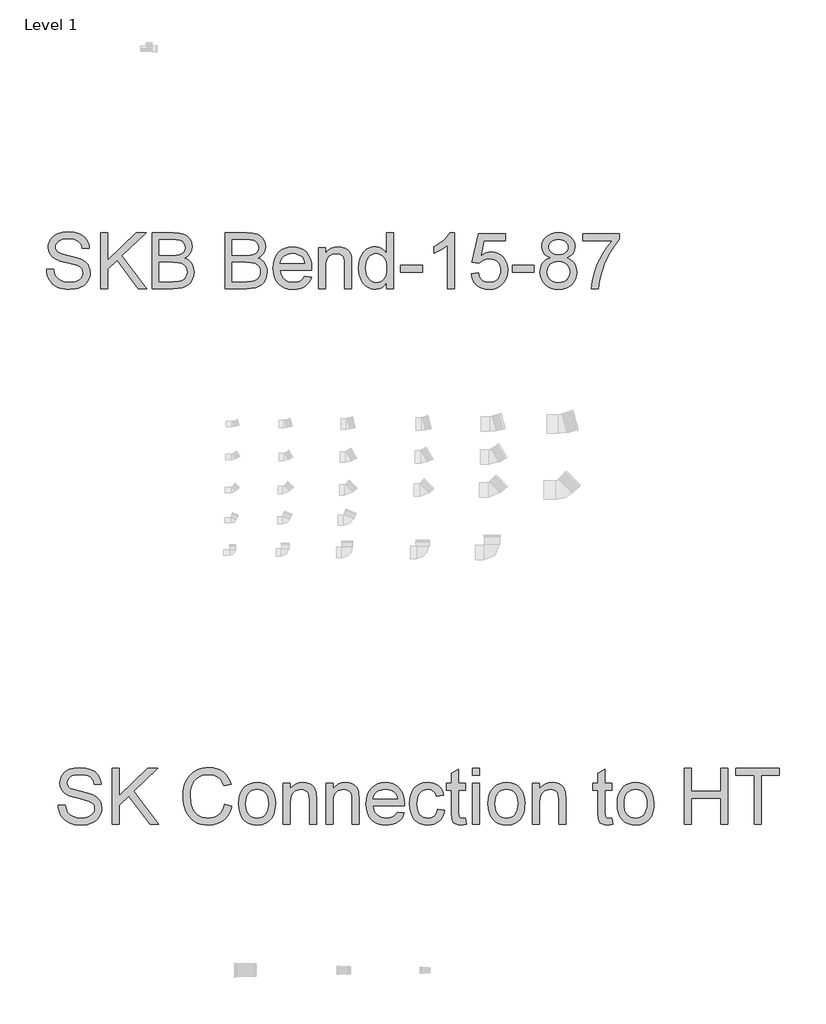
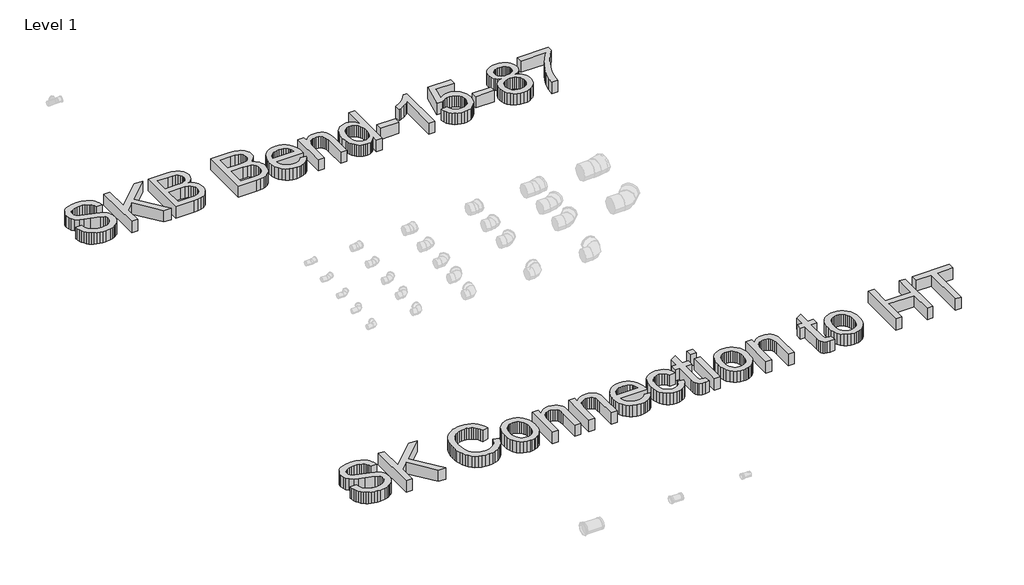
# One storey, part 18 of 29: 2 proxies.
"""IFC4 building model written with IfcOpenShell, lengths in millimetres."""

from ifc_helpers import new_model, si_unit, origin, origin_with_axes, place, context, project, spatial, polyline, outline, extrude, element, save

model = new_model("IFC4")

# Units and contexts
model_context = context("Model", 3, world=origin())
ifc_project = project(units=[si_unit("LENGTHUNIT", "METRE", prefix="MILLI")], contexts=[model_context])

# Site, building, storey
site = spatial("IfcSite", under=ifc_project)
building = spatial("IfcBuilding", under=site)
storey = spatial("IfcBuildingStorey", under=building, Name="Level 1", Elevation=0.0)

# Proxies
placement = place(None, origin())
element("IfcBuildingElementProxy", 1, Name="600mm Arial", ObjectType="600mm Arial", at=placement, inside=storey, context=model_context, shape_type="SweptSolid", body=[
    extrude(outline(polyline([(-4562.8219729, 26376.9031301), (-4487.4797402, 26376.9031301), (-4478.8345134, 26335.0933413), (-4463.1995286, 26301.4873211), (-4438.8089523, 26274.8158764), (-4403.8969509, 26253.8098145), (-4361.2226395, 26240.1797866), (-4313.5451329, 26235.6364439), (-4271.5697973, 26239.0761406), (-4234.818386, 26249.3952305), (-4205.0383385, 26265.7291911), (-4183.9770942, 26287.2134996), (-4171.4507123, 26311.8799874), (-4167.2752516, 26337.7604858), (-4170.4022486, 26362.9787966), (-4179.7832395, 26384.7758048), (-4198.8395268, 26403.3722396), (-4230.9924132, 26418.9888303), (-4340.6948242, 26447.7572023), (-4412.7077247, 26466.7950956), (-4458.7849446, 26484.9132839), (-4496.290514, 26510.2603533), (-4522.8699882, 26540.9784999), (-4538.7073081, 26576.4055361), (-4543.9864147, 26615.8792741), (-4542.3539384, 26638.3154773), (-4537.4565093, 26660.0067195), (-4529.2941275, 26680.9530006), (-4517.8667931, 26701.1543206), (-4503.3032646, 26719.7875437), (-4485.7323008, 26736.0295338), (-4465.1539017, 26749.8802909), (-4441.5680673, 26761.339815), (-4388.5562717, 26776.7356765), (-4329.8790935, 26781.8676304), (-4266.3090847, 26776.4965532), (-4210.6853271, 26760.3833218), (-4186.3499331, 26748.3811717), (-4164.9943833, 26733.85903), (-4146.6186776, 26716.8168966), (-4131.2228161, 26697.2547715), (-4118.9263604, 26675.7428718), (-4109.8488722, 26652.8514147), (-4103.9903514, 26628.5804), (-4101.3507981, 26602.9298279), (-4176.6930307, 26602.9298279), (-4181.7330141, 26626.9709163), (-4190.5253937, 26647.8850077), (-4203.0701698, 26665.6721022), (-4219.3673422, 26680.3321997), (-4239.7204135, 26691.7917238), (-4264.4328866, 26699.9770982), (-4293.5047612, 26704.8883229), (-4326.9360376, 26706.5253977), (-4361.4341717, 26704.906717), (-4390.9107165, 26700.0506746), (-4415.3656721, 26691.9572707), (-4434.7990385, 26680.6265053), (-4449.6062888, 26667.0056744), (-4460.1828962, 26652.0420743), (-4466.5288606, 26635.7357048), (-4468.6441821, 26618.0865661), (-4467.145063, 26602.9022368), (-4462.6477056, 26589.1342531), (-4455.1521099, 26576.7826151), (-4444.658276, 26565.8473228), (-4428.1403744, 26555.4914446), (-4402.1311174, 26545.0252019), (-4321.6385368, 26523.7616225), (-4238.5707823, 26503.564901), (-4188.3181018, 26485.9433534), (-4145.3678788, 26458.6097212), (-4128.7626053, 26442.5424751), (-4115.4038903, 26424.8749422), (-4105.1353841, 26405.6990932), (-4097.8007369, 26385.1068986), (-4091.933019, 26339.6734722), (-4093.6206777, 26316.1060318), (-4098.6836536, 26293.2283703), (-4107.1219469, 26271.0404874), (-4118.9355575, 26249.5423833), (-4133.9175517, 26229.566391), (-4151.860996, 26211.9448434), (-4172.7658904, 26196.6777406), (-4196.6322349, 26183.7650826), (-4222.7656521, 26173.4965764), (-4250.4717649, 26166.1619291), (-4310.602077, 26160.2942113), (-4349.1423145, 26161.8761039), (-4384.4175993, 26166.6217816), (-4416.4279314, 26174.5312445), (-4445.1733108, 26185.6044926), (-4470.8284814, 26199.8599199), (-4493.5681873, 26217.3159206), (-4513.3924283, 26237.9724946), (-4530.3012045, 26261.829642), (-4543.9220354, 26288.1148105), (-4553.8824404, 26316.0554481), (-4560.1824195, 26345.6515546), (-4562.8219729, 26376.9031301)])), origin_with_axes(), (0.0, 0.0, 1.0), 150.0),
    extrude(outline(polyline([(-3978.9196701, 26169.7119904), (-3978.9196701, 26772.4498513), (-3903.5774375, 26772.4498513), (-3903.5774375, 26477.4084912), (-3594.5565616, 26772.4498513), (-3489.1951581, 26772.4498513), (-3748.6255411, 26524.6445393), (-3479.7773791, 26169.7119904), (-3571.8950307, 26169.7119904), (-3802.0420068, 26473.7296712), (-3903.5774375, 26376.9031301), (-3903.5774375, 26169.7119904), (-3978.9196701, 26169.7119904)])), origin_with_axes(), (0.0, 0.0, 1.0), 150.0),
    extrude(outline(polyline([(-3423.2707046, 26169.7119904), (-3423.2707046, 26772.4498513), (-3193.2708812, 26772.4498513), (-3130.0135721, 26768.0168732), (-3080.6254143, 26754.7179391), (-3060.5482544, 26744.6609651), (-3042.770357, 26732.2219551), (-3027.291722, 26717.4009092), (-3014.1123496, 26700.1978274), (-2996.0677377, 26662.5267111), (-2990.0528671, 26623.0897612), (-2995.1112445, 26586.7982024), (-3010.2863768, 26552.6771474), (-3035.6886286, 26522.8235235), (-3071.4283644, 26499.3342581), (-3048.6886586, 26489.6405675), (-3028.7356589, 26477.0406092), (-3011.5693653, 26461.5343831), (-2997.1897778, 26443.1218892), (-2985.8268227, 26422.3641476), (-2977.7104261, 26399.8221784), (-2972.8405882, 26375.4959814), (-2971.2173089, 26349.3855568), (-2975.650287, 26307.3550389), (-2988.9492211, 26268.3779415), (-3008.7964547, 26235.2317737), (-3032.8743313, 26210.6940446), (-3062.3600732, 26192.9253443), (-3098.4309029, 26180.0862627), (-3142.2640426, 26172.3055585), (-3195.0367148, 26169.7119904), (-3423.2707046, 26169.7119904)]), holes=[polyline([(-3347.928472, 26527.5875953), (-3210.3406058, 26527.5875953), (-3162.2216408, 26529.2062761), (-3129.995178, 26534.0623184), (-3101.8705995, 26545.227537), (-3081.6554839, 26561.9477736), (-3069.4601957, 26583.9655111), (-3065.3950997, 26611.0232318), (-3069.1842842, 26637.2900063), (-3080.5518379, 26660.1722664), (-3098.9827259, 26678.0329372), (-3123.9619133, 26689.234944), (-3162.2952172, 26695.13945), (-3220.7884545, 26697.1076187), (-3347.928472, 26697.1076187), (-3347.928472, 26527.5875953)]), polyline([(-3347.928472, 26245.054223), (-3193.418034, 26245.054223), (-3137.4999707, 26247.997279), (-3111.545896, 26254.5271844), (-3090.1903462, 26264.4048159), (-3072.826316, 26278.5498787), (-3058.8468002, 26297.8820775), (-3049.6313562, 26321.5368898), (-3046.5595415, 26348.6497928), (-3050.1647851, 26380.1404916), (-3060.9805158, 26407.2166065), (-3079.8712562, 26428.3882153), (-3107.7015291, 26442.165396), (-3147.1200849, 26449.725371), (-3200.7756739, 26452.2453627), (-3347.928472, 26452.2453627), (-3347.928472, 26245.054223)])]), origin_with_axes(), (0.0, 0.0, 1.0), 150.0),
    extrude(outline(polyline([(-2632.1772622, 26169.7119904), (-2632.1772622, 26772.4498513), (-2402.1774388, 26772.4498513), (-2338.9201297, 26768.0168732), (-2289.5319719, 26754.7179391), (-2269.454812, 26744.6609651), (-2251.6769146, 26732.2219551), (-2236.1982796, 26717.4009092), (-2223.0189071, 26700.1978274), (-2204.9742953, 26662.5267111), (-2198.9594247, 26623.0897612), (-2204.0178021, 26586.7982024), (-2219.1929344, 26552.6771474), (-2244.5951862, 26522.8235235), (-2280.334922, 26499.3342581), (-2257.5952162, 26489.6405675), (-2237.6422164, 26477.0406092), (-2220.4759228, 26461.5343831), (-2206.0963354, 26443.1218892), (-2194.7333802, 26422.3641476), (-2186.6169837, 26399.8221784), (-2181.7471458, 26375.4959814), (-2180.1238665, 26349.3855568), (-2184.5568445, 26307.3550389), (-2197.8557787, 26268.3779415), (-2217.7030123, 26235.2317737), (-2241.7808889, 26210.6940446), (-2271.2666308, 26192.9253443), (-2307.3374604, 26180.0862627), (-2351.1706002, 26172.3055585), (-2403.9432724, 26169.7119904), (-2632.1772622, 26169.7119904)]), holes=[polyline([(-2556.8350296, 26527.5875953), (-2419.2471634, 26527.5875953), (-2371.1281984, 26529.2062761), (-2338.9017356, 26534.0623184), (-2310.7771571, 26545.227537), (-2290.5620415, 26561.9477736), (-2278.3667533, 26583.9655111), (-2274.3016573, 26611.0232318), (-2278.0908418, 26637.2900063), (-2289.4583955, 26660.1722664), (-2307.8892834, 26678.0329372), (-2332.8684709, 26689.234944), (-2371.2017748, 26695.13945), (-2429.695012, 26697.1076187), (-2556.8350296, 26697.1076187), (-2556.8350296, 26527.5875953)]), polyline([(-2556.8350296, 26245.054223), (-2402.3245916, 26245.054223), (-2346.4065283, 26247.997279), (-2320.4524536, 26254.5271844), (-2299.0969037, 26264.4048159), (-2281.7328736, 26278.5498787), (-2267.7533578, 26297.8820775), (-2258.5379138, 26321.5368898), (-2255.4660991, 26348.6497928), (-2259.0713427, 26380.1404916), (-2269.8870733, 26407.2166065), (-2288.7778138, 26428.3882153), (-2316.6080867, 26442.165396), (-2356.0266425, 26449.725371), (-2409.6822315, 26452.2453627), (-2556.8350296, 26452.2453627), (-2556.8350296, 26245.054223)])]), origin_with_axes(), (0.0, 0.0, 1.0), 150.0),
    extrude(outline(polyline([(-1776.042283, 26301.5608975), (-1702.1715784, 26292.1431184), (-1713.4977453, 26262.5562089), (-1728.7878407, 26236.4825725), (-1748.0418646, 26213.9222092), (-1771.2598171, 26194.8751189), (-1798.2025747, 26179.7459718), (-1828.6310142, 26168.9394382), (-1862.5451356, 26162.455518), (-1899.944939, 26160.2942113), (-1946.6935435, 26164.023615), (-1988.3469824, 26175.2118262), (-2024.9052557, 26193.8588448), (-2056.3683633, 26219.9646709), (-2081.6694475, 26252.8027375), (-2099.7416506, 26291.6464777), (-2110.5849724, 26336.4958914), (-2114.199413, 26387.3509787), (-2110.5481842, 26439.9305129), (-2099.5944978, 26486.2744472), (-2081.3383537, 26526.3827818), (-2055.7797521, 26560.2555165), (-2024.3994179, 26587.1660844), (-1988.6780762, 26606.3879187), (-1948.6157269, 26617.9210192), (-1904.2123701, 26621.7653861), (-1861.2391546, 26617.9302163), (-1822.3770203, 26606.4247069), (-1787.6259673, 26587.2488579), (-1756.9859956, 26560.4026693), (-1731.9746185, 26526.603511), (-1714.1093491, 26486.5687528), (-1703.3901875, 26440.2983949), (-1699.8171336, 26387.7924371), (-1700.258592, 26367.485351), (-2038.8571804, 26367.485351), (-2034.4931802, 26337.4201949), (-2025.8157636, 26311.0890411), (-2012.8249307, 26288.4918896), (-1995.5206813, 26269.6287403), (-1974.8595088, 26254.7571106), (-1951.7979062, 26244.134518), (-1926.3358736, 26237.7609624), (-1898.473411, 26235.6364439), (-1858.3742735, 26239.5727813), (-1824.6027064, 26251.3817933), (-1797.1587095, 26271.799244), (-1776.042283, 26301.5608975)]), holes=[polyline([(-2038.8571804, 26442.8275836), (-1775.1593662, 26442.8275836), (-1785.3496975, 26482.6324155), (-1794.114486, 26498.2857944), (-1805.3256898, 26511.1064819), (-1825.8718992, 26526.5575257), (-1849.2508, 26537.5939856), (-1875.4623922, 26544.2158615), (-1904.5066757, 26546.4231534), (-1930.9987779, 26544.6619184), (-1955.2927851, 26539.3782132), (-1977.3886975, 26530.572038), (-1997.2865149, 26518.2433926), (-2013.983759, 26502.9624942), (-2026.4779512, 26485.2995599), (-2034.7690917, 26465.2545897), (-2038.8571804, 26442.8275836)])]), origin_with_axes(), (0.0, 0.0, 1.0), 150.0),
    extrude(outline(polyline([(-1624.474901, 26169.7119904), (-1624.474901, 26612.347607), (-1549.1326684, 26612.347607), (-1549.1326684, 26550.5434318), (-1522.9578644, 26581.7030368), (-1491.5223479, 26603.9598975), (-1454.8261189, 26617.3140139), (-1412.8691774, 26621.7653861), (-1375.7314899, 26618.1785366), (-1341.7207995, 26607.4179882), (-1313.3570977, 26590.8265103), (-1293.1603761, 26569.7468719), (-1279.4567718, 26544.2342556), (-1270.5724216, 26514.3438435), (-1266.5992961, 26441.5032084), (-1266.5992961, 26169.7119904), (-1341.9415287, 26169.7119904), (-1341.9415287, 26431.3496654), (-1344.1120325, 26470.3083686), (-1350.6235438, 26498.0098829), (-1362.6348909, 26517.8571165), (-1381.3049022, 26533.252978), (-1405.235626, 26543.1306096), (-1433.0291107, 26546.4231534), (-1455.9067723, 26544.5745464), (-1477.156556, 26539.0287253), (-1496.7784619, 26529.7856902), (-1514.77249, 26516.845441), (-1529.8050681, 26498.7364498), (-1540.5426238, 26473.9871886), (-1546.9851572, 26442.5976574), (-1549.1326684, 26404.5678561), (-1549.1326684, 26169.7119904), (-1624.474901, 26169.7119904)])), origin_with_axes(), (0.0, 0.0, 1.0), 150.0),
    extrude(outline(polyline([(-889.888133, 26169.7119904), (-889.888133, 26240.7867919), (-912.4301023, 26205.5712879), (-939.7361434, 26180.4173564), (-971.8062563, 26165.3249976), (-1008.6404411, 26160.2942113), (-1033.5092639, 26162.1152272), (-1057.3480172, 26167.5782748), (-1080.1567009, 26176.6833542), (-1101.935315, 26189.4304653), (-1122.0032779, 26205.4379306), (-1139.6800077, 26224.3240726), (-1154.9655046, 26246.0888911), (-1167.8597686, 26270.7323863), (-1178.0960851, 26297.7855085), (-1185.4077397, 26326.7792082), (-1191.2570635, 26390.5883403), (-1185.8675922, 26453.6065261), (-1169.6991785, 26510.5178707), (-1157.5774668, 26535.8741372), (-1142.7702165, 26558.0850127), (-1125.2774276, 26577.1504971), (-1105.0991002, 26593.0705904), (-1082.9480056, 26605.6245635), (-1059.5369151, 26614.5916872), (-1034.8658288, 26619.9719613), (-1008.9347467, 26621.7653861), (-972.0729707, 26616.6334322), (-939.478626, 26601.2375707), (-911.8506881, 26577.6379407), (-889.888133, 26547.8946814), (-889.888133, 26772.4498513), (-814.5459004, 26772.4498513), (-814.5459004, 26169.7119904), (-889.888133, 26169.7119904)]), holes=[polyline([(-1115.9148309, 26390.8826459), (-1113.7903123, 26354.3473652), (-1107.4167568, 26322.7325063), (-1096.7941642, 26296.038069), (-1081.9225345, 26274.2640534), (-1064.1630312, 26257.3644743), (-1044.8768176, 26245.2933463), (-1024.0638937, 26238.0506695), (-1001.7242595, 26235.6364439), (-979.2788593, 26237.9403049), (-958.5900956, 26244.8518879), (-939.6579684, 26256.3711929), (-922.4824778, 26272.4982198), (-908.222452, 26293.3617275), (-898.0367192, 26319.0904745), (-891.9252796, 26349.684461), (-889.888133, 26385.1436868), (-891.9620678, 26424.0196166), (-898.183872, 26457.3589224), (-908.5535457, 26485.1616042), (-923.071089, 26507.427662), (-940.6236587, 26524.4881895), (-960.0984118, 26536.6742806), (-981.4953483, 26543.9859352), (-1004.8144683, 26546.4231534), (-1027.5955609, 26544.0825043), (-1048.4084847, 26537.0605567), (-1067.2532399, 26525.3573107), (-1084.1298265, 26508.9727663), (-1098.0357659, 26487.5482386), (-1107.9685798, 26460.7250427), (-1113.9282681, 26428.5031784), (-1115.9148309, 26390.8826459)])]), origin_with_axes(), (0.0, 0.0, 1.0), 150.0),
    extrude(outline(polyline([(-739.2036678, 26348.6497928), (-739.2036678, 26423.9920255), (-503.7591909, 26423.9920255), (-503.7591909, 26348.6497928), (-739.2036678, 26348.6497928)])), origin_with_axes(), (0.0, 0.0, 1.0), 150.0),
    extrude(outline(polyline([(-155.301365, 26169.7119904), (-230.6435977, 26169.7119904), (-230.6435977, 26639.4237218), (-262.0975082, 26613.9846819), (-302.0127047, 26588.5824301), (-343.914464, 26566.3807517), (-381.3280629, 26550.5434318), (-381.3280629, 26621.7653861), (-322.154244, 26653.9550606), (-270.8898879, 26692.2515763), (-230.4780508, 26732.9761132), (-203.8617884, 26772.4498513), (-155.301365, 26772.4498513), (-155.301365, 26169.7119904)])), origin_with_axes(), (0.0, 0.0, 1.0), 150.0),
    extrude(outline(polyline([(23.6364374, 26329.8142347), (98.97867, 26339.2320138), (104.6072645, 26315.0115829), (112.811033, 26294.0009225), (123.5899755, 26276.2000324), (136.9440919, 26261.6089128), (152.8457912, 26250.2459577), (171.2674821, 26242.1295611), (192.2091646, 26237.2597232), (215.6708389, 26235.6364439), (244.3656345, 26237.8943197), (269.6759158, 26244.6679469), (291.6016827, 26255.9573256), (310.1429353, 26271.7624558), (324.8858062, 26291.3015883), (335.4164283, 26313.7929738), (341.7348016, 26339.2366123), (343.840926, 26367.6325038), (341.8681588, 26394.4694953), (335.9498572, 26418.3266427), (326.0860212, 26439.203946), (312.2766508, 26457.101405), (294.4757608, 26471.4579999), (272.6373658, 26481.7127105), (246.761466, 26487.8655369), (216.8480613, 26489.916479), (180.2989851, 26486.6423292), (150.7028785, 26476.81988), (127.0664604, 26461.7735064), (108.3964491, 26442.8275836), (33.0542165, 26452.2453627), (98.97867, 26763.0320722), (390.9298214, 26763.0320722), (390.9298214, 26687.6898396), (159.8999284, 26687.6898396), (127.6734656, 26521.7014834), (154.2621368, 26540.7577707), (181.4946015, 26554.3694045), (209.3708597, 26562.5363848), (237.8909114, 26565.2587116), (274.5825419, 26561.8833943), (308.2851312, 26551.7574424), (338.9986792, 26534.8808558), (366.7231861, 26511.2536347), (389.6744241, 26482.3197158), (406.0681655, 26449.5230359), (415.9044103, 26412.8635951), (419.1831586, 26372.3413933), (416.2309056, 26333.3091136), (407.3741466, 26296.9991607), (392.6128815, 26263.4115346), (371.9471104, 26232.5462352), (340.6403527, 26200.9359747), (304.1096705, 26178.3572173), (262.3550641, 26164.8099628), (215.3765333, 26160.2942113), (176.4960049, 26163.1958805), (141.37707, 26171.9008883), (110.0197284, 26186.4092344), (82.4239802, 26206.7209191), (59.4635452, 26231.8242667), (42.0121431, 26260.7076019), (30.0697738, 26293.3709245), (23.6364374, 26329.8142347)])), origin_with_axes(), (0.0, 0.0, 1.0), 150.0),
    extrude(outline(polyline([(466.272054, 26348.6497928), (466.272054, 26423.9920255), (701.7165309, 26423.9920255), (701.7165309, 26348.6497928), (466.272054, 26348.6497928)])), origin_with_axes(), (0.0, 0.0, 1.0), 150.0),
    extrude(outline(polyline([(877.4169718, 26501.6887028), (837.078711, 26521.5543306), (821.4207336, 26534.1358948), (808.7701915, 26548.4832926), (792.0499548, 26581.923766), (786.4765426, 26621.3239277), (789.5115691, 26652.0512713), (798.6166484, 26680.2218351), (813.7917807, 26705.835619), (835.036966, 26728.8926231), (861.3313316, 26747.9489104), (891.654005, 26761.5605442), (926.0049863, 26769.7275245), (964.3842755, 26772.4498513), (1002.9475056, 26769.6631452), (1037.5560043, 26761.3030268), (1068.2097716, 26747.3694963), (1094.9088074, 26727.8625535), (1116.5402687, 26704.354894), (1131.9913125, 26678.4192133), (1141.2619388, 26650.0555115), (1144.3521475, 26619.2637885), (1138.8523117, 26581.1328197), (1122.3528042, 26548.2625634), (1109.9321883, 26534.0117346), (1094.6696841, 26521.4991483), (1055.6190103, 26501.6887028), (1080.3820671, 26491.1534822), (1101.9905358, 26477.7947672), (1120.4444164, 26461.612558), (1135.7437088, 26442.6068544), (1147.7504574, 26421.2007208), (1156.3267065, 26397.8172215), (1161.4724559, 26372.4563565), (1163.1877057, 26345.1181257), (1159.7847972, 26307.5389799), (1149.5760718, 26273.086831), (1132.5615296, 26241.7616791), (1108.7411704, 26213.5635242), (1079.3657931, 26190.2581998), (1045.6861964, 26173.6115395), (1007.7023804, 26163.6235434), (965.4143451, 26160.2942113), (923.1263097, 26163.6373389), (885.1424937, 26173.6667218), (851.4628971, 26190.38236), (822.0875197, 26213.7842534), (798.2671606, 26242.1801449), (781.2526183, 26273.8777773), (771.0438929, 26308.8771506), (767.6409845, 26347.1782649), (769.4252121, 26375.7626959), (774.7778952, 26401.9191057), (783.6990335, 26425.6474944), (796.1886273, 26446.947862), (811.9707649, 26465.4339322), (830.7695348, 26480.7194291), (852.5849371, 26492.8043527), (877.4169718, 26501.6887028)]), holes=[polyline([(861.8187752, 26619.1166357), (863.4880398, 26601.844576), (868.4958334, 26586.2279853), (876.8421562, 26572.2668636), (888.5270081, 26559.9612109), (903.4032362, 26549.9180324), (921.3236879, 26542.7443335), (942.2883631, 26538.4401142), (966.2972618, 26537.0053744), (989.7129508, 26538.4309171), (1010.2223721, 26542.7075453), (1027.8255255, 26549.835259), (1042.5224112, 26559.8140581), (1054.1106941, 26571.8621934), (1062.388039, 26585.1979157), (1067.3544459, 26599.821225), (1069.0099149, 26615.7321213), (1067.2992636, 26632.2638185), (1062.1673098, 26647.4251552), (1053.6140534, 26661.2161315), (1041.6394945, 26673.6367474), (1026.611515, 26683.9052536), (1008.8979969, 26691.2399008), (988.4989403, 26695.6406892), (965.4143451, 26697.1076187), (942.1504074, 26695.6728789), (921.6547817, 26691.3686595), (903.9274681, 26684.1949606), (888.9684665, 26674.1517822), (877.0904765, 26662.1036468), (868.606198, 26648.9150773), (863.5156309, 26634.5860736), (861.8187752, 26619.1166357)]), polyline([(842.9832171, 26349.8270152), (846.1286081, 26321.0034609), (855.5647813, 26293.0996116), (872.9839938, 26268.7642176), (900.0785027, 26250.6460293), (932.5256947, 26239.3888403), (966.0029563, 26235.6364439), (993.244618, 26237.6092111), (1017.2857064, 26243.5275127), (1038.1262214, 26253.3913487), (1055.7661631, 26267.2007191), (1069.8008612, 26284.054313), (1079.8256456, 26303.0508195), (1085.8405162, 26324.1902387), (1087.8454731, 26347.4725705), (1085.7761368, 26371.1273827), (1079.5681282, 26392.6484795), (1069.221447, 26412.0358606), (1054.7360935, 26429.2895262), (1036.6179052, 26443.452983), (1015.37272, 26453.5697379), (991.0005378, 26459.6397908), (963.5013587, 26461.6631418), (936.6597686, 26459.6673819), (912.9359784, 26453.6801025), (892.3299882, 26443.7013033), (874.8417978, 26429.7309846), (860.9036688, 26412.7624275), (850.9478623, 26393.7889136), (844.9743784, 26372.8104429), (842.9832171, 26349.8270152)])]), origin_with_axes(), (0.0, 0.0, 1.0), 150.0),
    extrude(outline(polyline([(1229.1121592, 26687.6898396), (1229.1121592, 26763.0320722), (1624.6588804, 26763.0320722), (1624.6588804, 26702.1108138), (1568.2809647, 26630.7601008), (1512.4548719, 26540.0220067), (1463.2138668, 26438.1738764), (1443.3252465, 26386.1875519), (1426.5912142, 26333.4930546), (1408.6385728, 26255.1709779), (1398.6321826, 26169.7119904), (1323.28995, 26169.7119904), (1331.4385362, 26247.3718796), (1353.2355444, 26339.6734722), (1369.1050539, 26389.0386374), (1388.0923634, 26437.5116888), (1410.1974728, 26485.0926263), (1435.4203821, 26531.78145), (1490.6762578, 26617.0013142), (1549.3166478, 26687.6898396), (1229.1121592, 26687.6898396)])), origin_with_axes(), (0.0, 0.0, 1.0), 150.0),
])
element("IfcBuildingElementProxy", 2, Name="600mm Arial", ObjectType="600mm Arial", at=placement, inside=storey, context=model_context, shape_type="SweptSolid", body=[
    extrude(outline(polyline([(-4436.5673047, 20595.9452468), (-4361.225072, 20595.9452468), (-4352.5798452, 20554.1354581), (-4336.9448604, 20520.5294378), (-4312.5542841, 20493.8579931), (-4277.6422827, 20472.8519312), (-4234.9679713, 20459.2219033), (-4187.2904647, 20454.6785607), (-4145.3151291, 20458.1182573), (-4108.5637178, 20468.4373473), (-4078.7836702, 20484.7713079), (-4057.722426, 20506.2556164), (-4045.1960441, 20530.9221042), (-4041.0205834, 20556.8026025), (-4044.1475804, 20582.0209133), (-4053.5285713, 20603.8179215), (-4072.5848586, 20622.4143564), (-4104.737745, 20638.0309471), (-4214.440156, 20666.7993191), (-4286.4530565, 20685.8372123), (-4332.5302764, 20703.9554006), (-4370.0358458, 20729.3024701), (-4396.61532, 20760.0206167), (-4412.4526399, 20795.4476528), (-4417.7317465, 20834.9213909), (-4416.0992701, 20857.3575941), (-4411.2018411, 20879.0488362), (-4403.0394593, 20899.9951173), (-4391.6121248, 20920.1964374), (-4377.0485964, 20938.8296604), (-4359.4776326, 20955.0716505), (-4338.8992335, 20968.9224076), (-4315.313399, 20980.3819318), (-4262.3016035, 20995.7777933), (-4203.6244253, 21000.9097471), (-4140.0544165, 20995.53867), (-4084.4306589, 20979.4254386), (-4060.0952649, 20967.4232885), (-4038.7397151, 20952.9011467), (-4020.3640094, 20935.8590133), (-4004.9681479, 20916.2968882), (-3992.6716922, 20894.7849885), (-3983.594204, 20871.8935314), (-3977.7356832, 20847.6225168), (-3975.0961299, 20821.9719446), (-4050.4383625, 20821.9719446), (-4055.4783459, 20846.013033), (-4064.2707255, 20866.9271245), (-4076.8155016, 20884.7142189), (-4093.112674, 20899.3743164), (-4113.4657453, 20910.8338406), (-4138.1782184, 20919.019215), (-4167.250093, 20923.9304396), (-4200.6813693, 20925.5675145), (-4235.1795034, 20923.9488337), (-4264.6560483, 20919.0927914), (-4289.1110039, 20910.9993875), (-4308.5443703, 20899.668622), (-4323.3516206, 20886.0477912), (-4333.928228, 20871.084191), (-4340.2741924, 20854.7778216), (-4342.3895139, 20837.1286828), (-4340.8903948, 20821.9443535), (-4336.3930374, 20808.1763698), (-4328.8974417, 20795.8247318), (-4318.4036078, 20784.8894395), (-4301.8857062, 20774.5335614), (-4275.8764492, 20764.0673186), (-4195.3838686, 20742.8037393), (-4112.3161141, 20722.6070177), (-4062.0634336, 20704.9854702), (-4019.1132106, 20677.6518379), (-4002.5079371, 20661.5845918), (-3989.1492221, 20643.917059), (-3978.8807159, 20624.74121), (-3971.5460687, 20604.1490153), (-3965.6783508, 20558.7155889), (-3967.3660095, 20535.1481486), (-3972.4289854, 20512.270487), (-3980.8672787, 20490.0826042), (-3992.6808893, 20468.5845001), (-4007.6628835, 20448.6085077), (-4025.6063278, 20430.9869602), (-4046.5112222, 20415.7198574), (-4070.3775667, 20402.8071993), (-4096.5109839, 20392.5386931), (-4124.2170967, 20385.2040459), (-4184.3474088, 20379.336328), (-4222.8876463, 20380.9182206), (-4258.1629311, 20385.6638984), (-4290.1732632, 20393.5733613), (-4318.9186426, 20404.6466093), (-4344.5738132, 20418.9020366), (-4367.3135191, 20436.3580373), (-4387.1377601, 20457.0146113), (-4404.0465363, 20480.8717587), (-4417.6673672, 20507.1569273), (-4427.6277722, 20535.0975648), (-4433.9277513, 20564.6936713), (-4436.5673047, 20595.9452468)])), origin_with_axes(), (0.0, 0.0, 1.0), 150.0),
    extrude(outline(polyline([(-3852.6650019, 20388.7541071), (-3852.6650019, 20991.491968), (-3777.3227693, 20991.491968), (-3777.3227693, 20696.4506079), (-3468.3018934, 20991.491968), (-3362.9404899, 20991.491968), (-3622.3708729, 20743.6866561), (-3353.5227109, 20388.7541071), (-3445.6403624, 20388.7541071), (-3675.7873386, 20692.7717879), (-3777.3227693, 20595.9452468), (-3777.3227693, 20388.7541071), (-3852.6650019, 20388.7541071)])), origin_with_axes(), (0.0, 0.0, 1.0), 150.0),
    extrude(outline(polyline([(-2637.771501, 20603.0085811), (-2562.4292684, 20583.5844118), (-2577.3376863, 20536.7300412), (-2597.194117, 20495.7893736), (-2621.9985605, 20460.7624092), (-2651.7510169, 20431.6491478), (-2685.7801014, 20408.7622891), (-2723.4144295, 20392.414533), (-2764.6540012, 20382.6058793), (-2809.4988164, 20379.336328), (-2855.4426791, 20381.8103345), (-2896.8891843, 20389.2323537), (-2933.8383322, 20401.6023858), (-2966.2901227, 20418.9204307), (-2994.6906128, 20440.9289711), (-3019.4858592, 20467.3704895), (-3040.6758622, 20498.2449859), (-3058.2606215, 20533.5524604), (-3072.0699919, 20571.7662027), (-3081.9338279, 20611.3595024), (-3087.8521295, 20652.3323596), (-3089.8248967, 20694.6847743), (-3087.5946121, 20740.1273978), (-3080.9037583, 20782.571783), (-3069.7523354, 20822.0179299), (-3054.1403432, 20858.4658386), (-3034.4172697, 20891.3131022), (-3010.9326028, 20919.9573141), (-2983.6863426, 20944.3984741), (-2952.6784889, 20964.6365824), (-2918.9621041, 20980.5060919), (-2883.5902502, 20991.8414559), (-2846.5629274, 20998.6426743), (-2807.8801356, 21000.9097471), (-2764.7873584, 20997.9758882), (-2725.2722336, 20989.1743114), (-2689.3347612, 20974.5050169), (-2656.9749412, 20953.9680045), (-2628.7262025, 20928.1059002), (-2605.121974, 20897.4613301), (-2586.1622556, 20862.0342939), (-2571.8470475, 20821.8247918), (-2647.1892801, 20803.8721505), (-2659.0534745, 20833.5004467), (-2673.3089018, 20858.8153265), (-2689.9555621, 20879.8167899), (-2708.9934553, 20896.5048369), (-2730.5329461, 20909.2197583), (-2754.6843991, 20918.3018451), (-2781.4478143, 20923.7510971), (-2810.8231916, 20925.5675145), (-2844.6223499, 20923.5533606), (-2875.5336345, 20917.5108988), (-2903.5570455, 20907.4401292), (-2928.6925828, 20893.3410517), (-2950.6229483, 20875.8482628), (-2969.0308436, 20855.596359), (-2983.9162688, 20832.5853402), (-2995.279224, 20806.8152064), (-3009.6818041, 20751.6696954), (-3014.4826641, 20694.8319271), (-3008.7988873, 20625.2286536), (-3001.6941662, 20593.958684), (-2991.7475568, 20565.0431592), (-2978.7981106, 20539.0568948), (-2962.6848792, 20516.5747063), (-2943.4078626, 20497.5965939), (-2920.9670609, 20482.1225575), (-2896.4523245, 20470.1158089), (-2870.9535037, 20461.5395599), (-2844.4705986, 20456.3938105), (-2817.0036091, 20454.6785607), (-2784.2483159, 20457.0146113), (-2754.114182, 20464.0227633), (-2726.6012073, 20475.7030167), (-2701.7093918, 20492.0553714), (-2680.0273467, 20513.006251), (-2662.1436832, 20538.4820792), (-2648.0584013, 20568.4828559), (-2637.771501, 20603.0085811)])), origin_with_axes(), (0.0, 0.0, 1.0), 150.0),
    extrude(outline(polyline([(-2487.0870358, 20610.0719154), (-2483.0127427, 20667.3971273), (-2470.7898634, 20716.7944822), (-2450.4183979, 20758.2639801), (-2421.8983463, 20791.805621), (-2393.1851565, 20813.2439443), (-2361.4921227, 20828.5570324), (-2326.8192446, 20837.7448852), (-2289.1665224, 20840.8075028), (-2247.6004555, 20837.0780991), (-2210.0167111, 20825.8898879), (-2176.4152894, 20807.2428693), (-2146.7961903, 20781.1370432), (-2122.6217447, 20748.4553264), (-2105.3542835, 20710.0806358), (-2094.9938068, 20666.0129713), (-2091.5403146, 20616.2523329), (-2093.0670249, 20575.9232692), (-2097.6471557, 20540.1375481), (-2105.2807071, 20508.8951697), (-2115.9676791, 20482.1961339), (-2129.5747144, 20459.1345313), (-2145.9684558, 20438.8044526), (-2165.1489033, 20421.2058976), (-2187.1160569, 20406.3388665), (-2211.0145911, 20394.5252559), (-2235.98918, 20386.0869627), (-2262.0398238, 20381.0239867), (-2289.1665224, 20379.336328), (-2331.3395946, 20383.0519362), (-2369.2728269, 20394.1987606), (-2402.9662191, 20412.7768014), (-2432.4197713, 20438.7860585), (-2456.3366995, 20471.7850734), (-2473.4202197, 20511.3323879), (-2483.6703318, 20557.4280019), (-2487.0870358, 20610.0719154)]), holes=[polyline([(-2411.7448032, 20610.2190682), (-2409.5651024, 20573.6745905), (-2403.0259999, 20542.0321404), (-2392.1274958, 20515.2917179), (-2376.8695901, 20493.4533229), (-2358.3099434, 20476.4893644), (-2337.5062166, 20464.3722512), (-2314.4584096, 20457.1019833), (-2289.1665224, 20454.6785607), (-2264.0033939, 20457.1157789), (-2241.0475574, 20464.4274335), (-2220.2990129, 20476.6135246), (-2201.7577604, 20493.6740521), (-2186.4998546, 20515.7285778), (-2175.6013505, 20542.8966631), (-2169.062248, 20575.1783082), (-2166.8825472, 20612.573513), (-2169.0760436, 20647.9591624), (-2175.6565328, 20678.773878), (-2186.6240148, 20705.0176598), (-2201.9784896, 20726.6905079), (-2220.58872, 20743.6544664), (-2241.3234689, 20755.7715796), (-2264.1827364, 20763.0418475), (-2289.1665224, 20765.4652702), (-2314.4584096, 20763.0510446), (-2337.5062166, 20755.8083678), (-2358.3099434, 20743.7372398), (-2376.8695901, 20726.8376607), (-2392.1274958, 20705.0636451), (-2403.0259999, 20678.3692078), (-2409.5651024, 20646.7543489), (-2411.7448032, 20610.2190682)])]), origin_with_axes(), (0.0, 0.0, 1.0), 150.0),
    extrude(outline(polyline([(-2006.7803029, 20388.7541071), (-2006.7803029, 20831.3897237), (-1931.4380703, 20831.3897237), (-1931.4380703, 20769.5855485), (-1905.2632663, 20800.7451535), (-1873.8277499, 20823.0020142), (-1837.1315208, 20836.3561307), (-1795.1745793, 20840.8075028), (-1758.0368919, 20837.2206533), (-1724.0262014, 20826.460105), (-1695.6624996, 20809.868627), (-1675.4657781, 20788.7889887), (-1661.7621737, 20763.2763723), (-1652.8778236, 20733.3859602), (-1648.904698, 20660.5453252), (-1648.904698, 20388.7541071), (-1724.2469306, 20388.7541071), (-1724.2469306, 20650.3917821), (-1726.4174344, 20689.3504854), (-1732.9289457, 20717.0519996), (-1744.9402928, 20736.8992333), (-1763.6103041, 20752.2950948), (-1787.5410279, 20762.1727263), (-1815.3345126, 20765.4652702), (-1838.2121742, 20763.6166632), (-1859.4619579, 20758.0708421), (-1879.0838639, 20748.8278069), (-1897.077892, 20735.8875578), (-1912.11047, 20717.7785666), (-1922.8480257, 20693.0293053), (-1929.2905592, 20661.6397741), (-1931.4380703, 20623.6099728), (-1931.4380703, 20388.7541071), (-2006.7803029, 20388.7541071)])), origin_with_axes(), (0.0, 0.0, 1.0), 150.0),
    extrude(outline(polyline([(-1545.3091282, 20388.7541071), (-1545.3091282, 20831.3897237), (-1469.9668956, 20831.3897237), (-1469.9668956, 20769.5855485), (-1443.7920916, 20800.7451535), (-1412.3565751, 20823.0020142), (-1375.6603461, 20836.3561307), (-1333.7034045, 20840.8075028), (-1296.5657171, 20837.2206533), (-1262.5550267, 20826.460105), (-1234.1913248, 20809.868627), (-1213.9946033, 20788.7889887), (-1200.290999, 20763.2763723), (-1191.4066488, 20733.3859602), (-1187.4335233, 20660.5453252), (-1187.4335233, 20388.7541071), (-1262.7757559, 20388.7541071), (-1262.7757559, 20650.3917821), (-1264.9462596, 20689.3504854), (-1271.457771, 20717.0519996), (-1283.4691181, 20736.8992333), (-1302.1391294, 20752.2950948), (-1326.0698531, 20762.1727263), (-1353.8633379, 20765.4652702), (-1376.7409994, 20763.6166632), (-1397.9907832, 20758.0708421), (-1417.6126891, 20748.8278069), (-1435.6067172, 20735.8875578), (-1450.6392952, 20717.7785666), (-1461.376851, 20693.0293053), (-1467.8193844, 20661.6397741), (-1469.9668956, 20623.6099728), (-1469.9668956, 20388.7541071), (-1545.3091282, 20388.7541071)])), origin_with_axes(), (0.0, 0.0, 1.0), 150.0),
    extrude(outline(polyline([(-773.9341607, 20520.6030142), (-700.063456, 20511.1852351), (-711.389623, 20481.5983257), (-726.6797184, 20455.5246892), (-745.9337423, 20432.9643259), (-769.1516947, 20413.9172356), (-796.0944524, 20398.7880885), (-826.5228919, 20387.9815549), (-860.4370133, 20381.4976348), (-897.8368167, 20379.336328), (-944.5854212, 20383.0657318), (-986.2388601, 20394.2539429), (-1022.7971334, 20412.9009616), (-1054.260241, 20439.0067877), (-1079.5613252, 20471.8448543), (-1097.6335282, 20510.6885944), (-1108.47685, 20555.5380082), (-1112.0912906, 20606.3930955), (-1108.4400618, 20658.9726296), (-1097.4863754, 20705.316564), (-1079.2302314, 20745.4248985), (-1053.6716298, 20779.2976332), (-1022.2912956, 20806.2082011), (-986.5699539, 20825.4300354), (-946.5076046, 20836.9631359), (-902.1042478, 20840.8075028), (-859.1310322, 20836.972333), (-820.268898, 20825.4668236), (-785.517845, 20806.2909746), (-754.8778733, 20779.444786), (-729.8664962, 20745.6456277), (-712.0012268, 20705.6108696), (-701.2820652, 20659.3405116), (-697.7090113, 20606.8345539), (-698.1504697, 20586.5274677), (-1036.749058, 20586.5274677), (-1032.3850579, 20556.4623117), (-1023.7076413, 20530.1311579), (-1010.7168083, 20507.5340063), (-993.412559, 20488.670857), (-972.7513864, 20473.7992274), (-949.6897839, 20463.1766347), (-924.2277513, 20456.8030792), (-896.3652887, 20454.6785607), (-856.2661512, 20458.614898), (-822.494584, 20470.42391), (-795.0505872, 20490.8413608), (-773.9341607, 20520.6030142)]), holes=[polyline([(-1036.749058, 20661.8697003), (-773.0512439, 20661.8697003), (-783.2415752, 20701.6745322), (-792.0063637, 20717.3279111), (-803.2175675, 20730.1485986), (-823.7637769, 20745.5996424), (-847.1426777, 20756.6361023), (-873.3542699, 20763.2579782), (-902.3985534, 20765.4652702), (-928.8906556, 20763.7040351), (-953.1846628, 20758.42033), (-975.2805752, 20749.6141547), (-995.1783926, 20737.2855094), (-1011.8756366, 20722.004611), (-1024.3698289, 20704.3416767), (-1032.6609694, 20684.2967065), (-1036.749058, 20661.8697003)])]), origin_with_axes(), (0.0, 0.0, 1.0), 150.0),
    extrude(outline(polyline([(-339.8334064, 20548.8563514), (-264.4911738, 20539.4385723), (-272.6857452, 20503.887376), (-285.4972357, 20472.4288669), (-302.9256452, 20445.063045), (-324.9709738, 20421.7899103), (-350.7043193, 20403.2164681), (-379.1967799, 20389.9497236), (-410.4483553, 20381.9896769), (-444.4590458, 20379.336328), (-486.7148915, 20383.0381406), (-524.6021384, 20394.1435784), (-558.1207867, 20412.6526412), (-587.2708363, 20438.5653293), (-610.8658678, 20471.3941988), (-627.7194617, 20510.6518062), (-637.831618, 20556.3381515), (-641.2023368, 20608.4532346), (-635.4449836, 20675.4997283), (-628.2482921, 20705.6706504), (-618.1729239, 20733.6066894), (-605.1499013, 20758.7468252), (-589.1102463, 20780.5300379), (-570.0539589, 20798.9563273), (-547.9810392, 20814.0256935), (-523.8893671, 20825.7427351), (-498.7768224, 20834.1120505), (-472.6434052, 20839.1336397), (-445.4891154, 20840.8075028), (-412.0624376, 20838.5082403), (-381.8271361, 20831.6104529), (-354.7832109, 20820.1141406), (-330.9306621, 20804.0193033), (-310.6741597, 20783.693823), (-294.4183741, 20759.5055819), (-282.1633051, 20731.4545797), (-273.9089528, 20699.5408166), (-349.2511854, 20690.1230376), (-362.9180016, 20722.9932938), (-384.199975, 20746.5561356), (-411.9198833, 20760.7379865), (-444.9005042, 20765.4652702), (-470.5004925, 20763.1384166), (-493.5896863, 20756.1578557), (-514.1680854, 20744.5235876), (-532.2356898, 20728.2356123), (-546.9463711, 20706.9168506), (-557.4540006, 20680.1902237), (-563.7585783, 20648.0557314), (-565.8601042, 20610.5133738), (-563.8045636, 20572.4053976), (-557.6379416, 20539.8984248), (-547.3602384, 20512.9924554), (-532.9714538, 20491.6874894), (-515.2625343, 20475.4960831), (-495.024426, 20463.9307928), (-472.2571291, 20456.9916187), (-446.9606434, 20454.6785607), (-407.9467578, 20460.454308), (-391.0747698, 20467.6739921), (-375.9594183, 20477.78155), (-363.0237676, 20490.887346), (-352.6908821, 20507.101745), (-344.9607617, 20526.4247468), (-339.8334064, 20548.8563514)])), origin_with_axes(), (0.0, 0.0, 1.0), 150.0),
    extrude(outline(polyline([(-38.4644759, 20451.5883519), (-29.0466968, 20386.5468151), (-85.4062185, 20379.336328), (-121.5690186, 20382.463325), (-148.5347689, 20391.8443159), (-167.5910562, 20406.3020783), (-180.0254677, 20424.6593899), (-186.8680728, 20456.1868768), (-189.1489411, 20510.1551655), (-189.1489411, 20756.0474911), (-245.6556156, 20756.0474911), (-245.6556156, 20831.3897237), (-189.1489411, 20831.3897237), (-189.1489411, 20938.9584191), (-113.8067085, 20983.2514113), (-113.8067085, 20831.3897237), (-38.4644759, 20831.3897237), (-38.4644759, 20756.0474911), (-113.8067085, 20756.0474911), (-113.8067085, 20512.3624575), (-109.833583, 20473.5141188), (-96.9577132, 20459.7553322), (-86.0868002, 20455.9477535), (-71.2795499, 20454.6785607), (-38.4644759, 20451.5883519)])), origin_with_axes(), (0.0, 0.0, 1.0), 150.0),
    extrude(outline(polyline([(36.8777567, 20916.1497354), (36.8777567, 20991.491968), (112.2199893, 20991.491968), (112.2199893, 20916.1497354), (36.8777567, 20916.1497354)])), origin_with_axes(), (0.0, 0.0, 1.0), 150.0),
    extrude(outline(polyline([(36.8777567, 20388.7541071), (36.8777567, 20831.3897237), (112.2199893, 20831.3897237), (112.2199893, 20388.7541071), (36.8777567, 20388.7541071)])), origin_with_axes(), (0.0, 0.0, 1.0), 150.0),
    extrude(outline(polyline([(206.3977801, 20610.0719154), (210.4720732, 20667.3971273), (222.6949525, 20716.7944822), (243.0664179, 20758.2639801), (271.5864696, 20791.805621), (300.2996593, 20813.2439443), (331.9926932, 20828.5570324), (366.6655713, 20837.7448852), (404.3182935, 20840.8075028), (445.8843604, 20837.0780991), (483.4681047, 20825.8898879), (517.0695265, 20807.2428693), (546.6886256, 20781.1370432), (570.8630712, 20748.4553264), (588.1305324, 20710.0806358), (598.4910091, 20666.0129713), (601.9445013, 20616.2523329), (600.417791, 20575.9232692), (595.8376602, 20540.1375481), (588.2041088, 20508.8951697), (577.5171368, 20482.1961339), (563.9101015, 20459.1345313), (547.5163601, 20438.8044526), (528.3359126, 20421.2058976), (506.3687589, 20406.3388665), (482.4702248, 20394.5252559), (457.4956359, 20386.0869627), (431.4449921, 20381.0239867), (404.3182935, 20379.336328), (362.1452213, 20383.0519362), (324.211989, 20394.1987606), (290.5185968, 20412.7768014), (261.0650446, 20438.7860585), (237.1481163, 20471.7850734), (220.0645962, 20511.3323879), (209.8144841, 20557.4280019), (206.3977801, 20610.0719154)]), holes=[polyline([(281.7400127, 20610.2190682), (283.9197135, 20573.6745905), (290.458816, 20542.0321404), (301.3573201, 20515.2917179), (316.6152258, 20493.4533229), (335.1748725, 20476.4893644), (355.9785993, 20464.3722512), (379.0264063, 20457.1019833), (404.3182935, 20454.6785607), (429.4814219, 20457.1157789), (452.4372584, 20464.4274335), (473.185803, 20476.6135246), (491.7270555, 20493.6740521), (506.9849613, 20515.7285778), (517.8834654, 20542.8966631), (524.4225679, 20575.1783082), (526.6022687, 20612.573513), (524.4087723, 20647.9591624), (517.8282831, 20678.773878), (506.8608011, 20705.0176598), (491.5063263, 20726.6905079), (472.8960959, 20743.6544664), (452.1613469, 20755.7715796), (429.3020795, 20763.0418475), (404.3182935, 20765.4652702), (379.0264063, 20763.0510446), (355.9785993, 20755.8083678), (335.1748725, 20743.7372398), (316.6152258, 20726.8376607), (301.3573201, 20705.0636451), (290.458816, 20678.3692078), (283.9197135, 20646.7543489), (281.7400127, 20610.2190682)])]), origin_with_axes(), (0.0, 0.0, 1.0), 150.0),
    extrude(outline(polyline([(686.704513, 20388.7541071), (686.704513, 20831.3897237), (762.0467456, 20831.3897237), (762.0467456, 20769.5855485), (788.2215495, 20800.7451535), (819.657066, 20823.0020142), (856.353295, 20836.3561307), (898.3102366, 20840.8075028), (935.447924, 20837.2206533), (969.4586145, 20826.460105), (997.8223163, 20809.868627), (1018.0190378, 20788.7889887), (1031.7226422, 20763.2763723), (1040.6069923, 20733.3859602), (1044.5801179, 20660.5453252), (1044.5801179, 20388.7541071), (969.2378853, 20388.7541071), (969.2378853, 20650.3917821), (967.0673815, 20689.3504854), (960.5558702, 20717.0519996), (948.544523, 20736.8992333), (929.8745118, 20752.2950948), (905.943788, 20762.1727263), (878.1503033, 20765.4652702), (855.2726417, 20763.6166632), (834.0228579, 20758.0708421), (814.400952, 20748.8278069), (796.4069239, 20735.8875578), (781.3743459, 20717.7785666), (770.6367902, 20693.0293053), (764.1942567, 20661.6397741), (762.0467456, 20623.6099728), (762.0467456, 20388.7541071), (686.704513, 20388.7541071)])), origin_with_axes(), (0.0, 0.0, 1.0), 150.0),
    extrude(outline(polyline([(1543.7224089, 20451.5883519), (1553.140188, 20386.5468151), (1496.7806664, 20379.336328), (1460.6178662, 20382.463325), (1433.652116, 20391.8443159), (1414.5958286, 20406.3020783), (1402.1614172, 20424.6593899), (1395.3188121, 20456.1868768), (1393.0379437, 20510.1551655), (1393.0379437, 20756.0474911), (1336.5312693, 20756.0474911), (1336.5312693, 20831.3897237), (1393.0379437, 20831.3897237), (1393.0379437, 20938.9584191), (1468.3801763, 20983.2514113), (1468.3801763, 20831.3897237), (1543.7224089, 20831.3897237), (1543.7224089, 20756.0474911), (1468.3801763, 20756.0474911), (1468.3801763, 20512.3624575), (1472.3533019, 20473.5141188), (1485.2291717, 20459.7553322), (1496.1000847, 20455.9477535), (1510.907335, 20454.6785607), (1543.7224089, 20451.5883519)])), origin_with_axes(), (0.0, 0.0, 1.0), 150.0),
    extrude(outline(polyline([(1600.2290834, 20610.0719154), (1604.3033765, 20667.3971273), (1616.5262558, 20716.7944822), (1636.8977213, 20758.2639801), (1665.4177729, 20791.805621), (1694.1309627, 20813.2439443), (1725.8239966, 20828.5570324), (1760.4968746, 20837.7448852), (1798.1495968, 20840.8075028), (1839.7156637, 20837.0780991), (1877.2994081, 20825.8898879), (1910.9008298, 20807.2428693), (1940.5199289, 20781.1370432), (1964.6943745, 20748.4553264), (1981.9618357, 20710.0806358), (1992.3223124, 20666.0129713), (1995.7758046, 20616.2523329), (1994.2490943, 20575.9232692), (1989.6689635, 20540.1375481), (1982.0354121, 20508.8951697), (1971.3484401, 20482.1961339), (1957.7414048, 20459.1345313), (1941.3476634, 20438.8044526), (1922.1672159, 20421.2058976), (1900.2000623, 20406.3388665), (1876.3015282, 20394.5252559), (1851.3269392, 20386.0869627), (1825.2762954, 20381.0239867), (1798.1495968, 20379.336328), (1755.9765246, 20383.0519362), (1718.0432924, 20394.1987606), (1684.3499001, 20412.7768014), (1654.8963479, 20438.7860585), (1630.9794197, 20471.7850734), (1613.8958995, 20511.3323879), (1603.6457874, 20557.4280019), (1600.2290834, 20610.0719154)]), holes=[polyline([(1675.571316, 20610.2190682), (1677.7510168, 20573.6745905), (1684.2901193, 20542.0321404), (1695.1886234, 20515.2917179), (1710.4465292, 20493.4533229), (1729.0061758, 20476.4893644), (1749.8099026, 20464.3722512), (1772.8577096, 20457.1019833), (1798.1495968, 20454.6785607), (1823.3127253, 20457.1157789), (1846.2685618, 20464.4274335), (1867.0171063, 20476.6135246), (1885.5583589, 20493.6740521), (1900.8162646, 20515.7285778), (1911.7147687, 20542.8966631), (1918.2538712, 20575.1783082), (1920.433572, 20612.573513), (1918.2400756, 20647.9591624), (1911.6595864, 20678.773878), (1900.6921044, 20705.0176598), (1885.3376297, 20726.6905079), (1866.7273992, 20743.6544664), (1845.9926503, 20755.7715796), (1823.1333828, 20763.0418475), (1798.1495968, 20765.4652702), (1772.8577096, 20763.0510446), (1749.8099026, 20755.8083678), (1729.0061758, 20743.7372398), (1710.4465292, 20726.8376607), (1695.1886234, 20705.0636451), (1684.2901193, 20678.3692078), (1677.7510168, 20646.7543489), (1675.571316, 20610.2190682)])]), origin_with_axes(), (0.0, 0.0, 1.0), 150.0),
    extrude(outline(polyline([(2325.3980723, 20388.7541071), (2325.3980723, 20991.491968), (2400.7403049, 20991.491968), (2400.7403049, 20746.629712), (2720.9447935, 20746.629712), (2720.9447935, 20991.491968), (2796.2870261, 20991.491968), (2796.2870261, 20388.7541071), (2720.9447935, 20388.7541071), (2720.9447935, 20671.2874794), (2400.7403049, 20671.2874794), (2400.7403049, 20388.7541071), (2325.3980723, 20388.7541071)])), origin_with_axes(), (0.0, 0.0, 1.0), 150.0),
    extrude(outline(polyline([(3078.8203984, 20388.7541071), (3078.8203984, 20916.1497354), (2881.0470378, 20916.1497354), (2881.0470378, 20991.491968), (3351.9359916, 20991.491968), (3351.9359916, 20916.1497354), (3154.162631, 20916.1497354), (3154.162631, 20388.7541071), (3078.8203984, 20388.7541071)])), origin_with_axes(), (0.0, 0.0, 1.0), 150.0),
])

save(model, "model.ifc")
